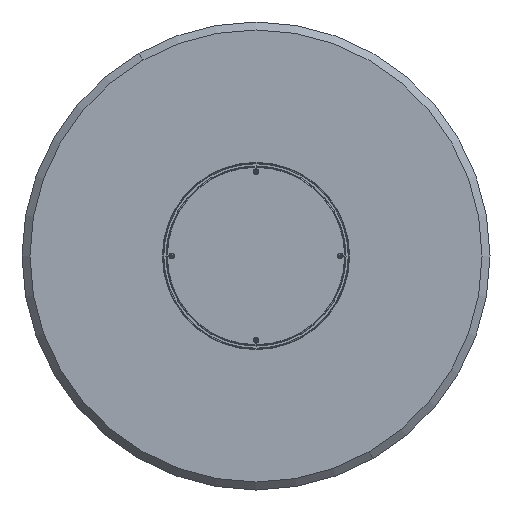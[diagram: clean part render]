
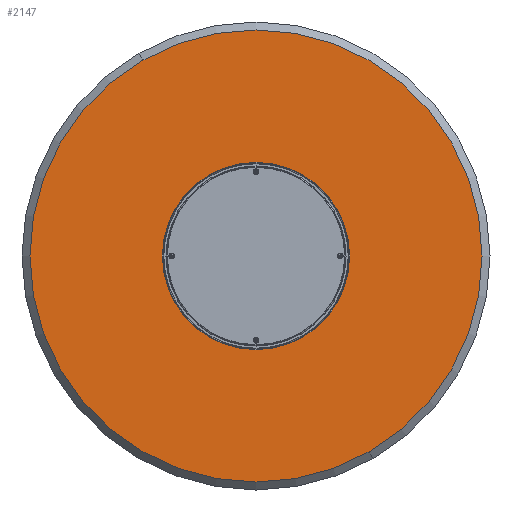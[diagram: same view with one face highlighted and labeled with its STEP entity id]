
A CAD part, front view. The second image highlights one B-rep face of the part: STEP entity #2147.
In plain terms, the highlighted planar face has unit normal (0, -1, 0).
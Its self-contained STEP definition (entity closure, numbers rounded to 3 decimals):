
#12 = AXIS2_PLACEMENT_3D ( 'NONE', #2810, #1569, #615 ) ;
#64 = DIRECTION ( 'NONE',  ( 0., 0., -1. ) ) ;
#102 = CIRCLE ( 'NONE', #3999, 3.4 ) ;
#177 = CARTESIAN_POINT ( 'NONE',  ( 0., 0., -3.4 ) ) ;
#235 = CIRCLE ( 'NONE', #5451, 3.4 ) ;
#360 = EDGE_CURVE ( 'NONE', #5719, #2220, #5737, .T. ) ;
#401 = FACE_BOUND ( 'NONE', #2996, .T. ) ;
#429 = FACE_BOUND ( 'NONE', #3474, .T. ) ;
#456 = ORIENTED_EDGE ( 'NONE', *, *, #874, .F. ) ;
#460 = CARTESIAN_POINT ( 'NONE',  ( 0., 0., 0. ) ) ;
#603 = ORIENTED_EDGE ( 'NONE', *, *, #1228, .F. ) ;
#615 = DIRECTION ( 'NONE',  ( 0., 0., -1. ) ) ;
#676 = CARTESIAN_POINT ( 'NONE',  ( -95., 0., -51.448 ) ) ;
#679 = CIRCLE ( 'NONE', #1247, 3.4 ) ;
#745 = EDGE_CURVE ( 'NONE', #3417, #2244, #679, .T. ) ;
#760 = CARTESIAN_POINT ( 'NONE',  ( 0., 0., 109.697 ) ) ;
#852 = CARTESIAN_POINT ( 'NONE',  ( -95., 0., -58.248 ) ) ;
#874 = EDGE_CURVE ( 'NONE', #5403, #3027, #102, .T. ) ;
#910 = AXIS2_PLACEMENT_3D ( 'NONE', #5236, #4828, #4793 ) ;
#927 = CIRCLE ( 'NONE', #4136, 3.4 ) ;
#1110 = DIRECTION ( 'NONE',  ( 0., -1., 0. ) ) ;
#1173 = DIRECTION ( 'NONE',  ( 0., 0., -1. ) ) ;
#1225 = DIRECTION ( 'NONE',  ( 0., 0., -1. ) ) ;
#1228 = EDGE_CURVE ( 'NONE', #3202, #5114, #2568, .T. ) ;
#1247 = AXIS2_PLACEMENT_3D ( 'NONE', #4613, #5025, #3749 ) ;
#1338 = DIRECTION ( 'NONE',  ( 0., -1., 0. ) ) ;
#1453 = CARTESIAN_POINT ( 'NONE',  ( 0., 0., 3.4 ) ) ;
#1466 = EDGE_LOOP ( 'NONE', ( #603, #5463 ) ) ;
#1569 = DIRECTION ( 'NONE',  ( 0., -1., 0. ) ) ;
#1680 = AXIS2_PLACEMENT_3D ( 'NONE', #1981, #4231, #4205 ) ;
#1685 = DIRECTION ( 'NONE',  ( 0., -1., 0. ) ) ;
#1747 = CARTESIAN_POINT ( 'NONE',  ( 0., 0., 0. ) ) ;
#1773 = CIRCLE ( 'NONE', #1680, 483. ) ;
#1783 = CARTESIAN_POINT ( 'NONE',  ( -95., 0., -54.848 ) ) ;
#1859 = CIRCLE ( 'NONE', #3569, 3.4 ) ;
#1870 = CIRCLE ( 'NONE', #3756, 3.4 ) ;
#1885 = CARTESIAN_POINT ( 'NONE',  ( 0., 0., 106.297 ) ) ;
#1897 = EDGE_CURVE ( 'NONE', #2781, #4811, #3059, .T. ) ;
#1981 = CARTESIAN_POINT ( 'NONE',  ( 0., 0., 0. ) ) ;
#2034 = ORIENTED_EDGE ( 'NONE', *, *, #745, .F. ) ;
#2112 = CARTESIAN_POINT ( 'NONE',  ( 95., 0., -58.248 ) ) ;
#2147 = ADVANCED_FACE ( 'NONE', ( #2209, #401, #4942, #4023, #429 ), #5323, .T. ) ;
#2177 = EDGE_LOOP ( 'NONE', ( #3536, #5758 ) ) ;
#2204 = EDGE_LOOP ( 'NONE', ( #4012, #2034 ) ) ;
#2209 = FACE_BOUND ( 'NONE', #2204, .T. ) ;
#2220 = VERTEX_POINT ( 'NONE', #3523 ) ;
#2240 = DIRECTION ( 'NONE',  ( 0., -1., 0. ) ) ;
#2244 = VERTEX_POINT ( 'NONE', #852 ) ;
#2445 = CARTESIAN_POINT ( 'NONE',  ( 0., 0., 113.097 ) ) ;
#2568 = CIRCLE ( 'NONE', #12, 3.4 ) ;
#2623 = CARTESIAN_POINT ( 'NONE',  ( 0., 0., 483. ) ) ;
#2781 = VERTEX_POINT ( 'NONE', #1885 ) ;
#2810 = CARTESIAN_POINT ( 'NONE',  ( 95., 0., -54.848 ) ) ;
#2951 = DIRECTION ( 'NONE',  ( 0., 0., -1. ) ) ;
#2996 = EDGE_LOOP ( 'NONE', ( #3762, #4578 ) ) ;
#3027 = VERTEX_POINT ( 'NONE', #177 ) ;
#3059 = CIRCLE ( 'NONE', #3822, 3.4 ) ;
#3202 = VERTEX_POINT ( 'NONE', #2112 ) ;
#3417 = VERTEX_POINT ( 'NONE', #676 ) ;
#3425 = DIRECTION ( 'NONE',  ( 0., -1., 0. ) ) ;
#3474 = EDGE_LOOP ( 'NONE', ( #4266, #456 ) ) ;
#3523 = CARTESIAN_POINT ( 'NONE',  ( 0., 0., -483. ) ) ;
#3536 = ORIENTED_EDGE ( 'NONE', *, *, #360, .T. ) ;
#3569 = AXIS2_PLACEMENT_3D ( 'NONE', #3717, #4189, #64 ) ;
#3717 = CARTESIAN_POINT ( 'NONE',  ( 0., 0., 109.697 ) ) ;
#3749 = DIRECTION ( 'NONE',  ( 0., 0., -1. ) ) ;
#3756 = AXIS2_PLACEMENT_3D ( 'NONE', #1783, #1338, #4954 ) ;
#3762 = ORIENTED_EDGE ( 'NONE', *, *, #1897, .F. ) ;
#3822 = AXIS2_PLACEMENT_3D ( 'NONE', #760, #1685, #2951 ) ;
#3999 = AXIS2_PLACEMENT_3D ( 'NONE', #5678, #3425, #1173 ) ;
#4008 = AXIS2_PLACEMENT_3D ( 'NONE', #460, #2240, #5835 ) ;
#4012 = ORIENTED_EDGE ( 'NONE', *, *, #5289, .F. ) ;
#4023 = FACE_OUTER_BOUND ( 'NONE', #2177, .T. ) ;
#4136 = AXIS2_PLACEMENT_3D ( 'NONE', #1747, #4883, #4914 ) ;
#4189 = DIRECTION ( 'NONE',  ( 0., -1., 0. ) ) ;
#4205 = DIRECTION ( 'NONE',  ( 0., 0., -1. ) ) ;
#4231 = DIRECTION ( 'NONE',  ( 0., -1., 0. ) ) ;
#4266 = ORIENTED_EDGE ( 'NONE', *, *, #5804, .F. ) ;
#4312 = EDGE_CURVE ( 'NONE', #4811, #2781, #1859, .T. ) ;
#4521 = EDGE_CURVE ( 'NONE', #5114, #3202, #235, .T. ) ;
#4578 = ORIENTED_EDGE ( 'NONE', *, *, #4312, .F. ) ;
#4613 = CARTESIAN_POINT ( 'NONE',  ( -95., 0., -54.848 ) ) ;
#4793 = DIRECTION ( 'NONE',  ( 0., 0., -1. ) ) ;
#4811 = VERTEX_POINT ( 'NONE', #2445 ) ;
#4828 = DIRECTION ( 'NONE',  ( 0., -1., 0. ) ) ;
#4883 = DIRECTION ( 'NONE',  ( 0., -1., 0. ) ) ;
#4914 = DIRECTION ( 'NONE',  ( 0., 0., -1. ) ) ;
#4942 = FACE_BOUND ( 'NONE', #1466, .T. ) ;
#4954 = DIRECTION ( 'NONE',  ( 0., 0., -1. ) ) ;
#5025 = DIRECTION ( 'NONE',  ( 0., -1., 0. ) ) ;
#5114 = VERTEX_POINT ( 'NONE', #5722 ) ;
#5236 = CARTESIAN_POINT ( 'NONE',  ( 0., 0., 0. ) ) ;
#5283 = CARTESIAN_POINT ( 'NONE',  ( 95., 0., -54.848 ) ) ;
#5289 = EDGE_CURVE ( 'NONE', #2244, #3417, #1870, .T. ) ;
#5323 = PLANE ( 'NONE',  #4008 ) ;
#5403 = VERTEX_POINT ( 'NONE', #1453 ) ;
#5404 = EDGE_CURVE ( 'NONE', #2220, #5719, #1773, .T. ) ;
#5451 = AXIS2_PLACEMENT_3D ( 'NONE', #5283, #1110, #1225 ) ;
#5463 = ORIENTED_EDGE ( 'NONE', *, *, #4521, .F. ) ;
#5678 = CARTESIAN_POINT ( 'NONE',  ( 0., 0., 0. ) ) ;
#5719 = VERTEX_POINT ( 'NONE', #2623 ) ;
#5722 = CARTESIAN_POINT ( 'NONE',  ( 95., 0., -51.448 ) ) ;
#5737 = CIRCLE ( 'NONE', #910, 483. ) ;
#5758 = ORIENTED_EDGE ( 'NONE', *, *, #5404, .T. ) ;
#5804 = EDGE_CURVE ( 'NONE', #3027, #5403, #927, .T. ) ;
#5835 = DIRECTION ( 'NONE',  ( 0., 0., -1. ) ) ;
